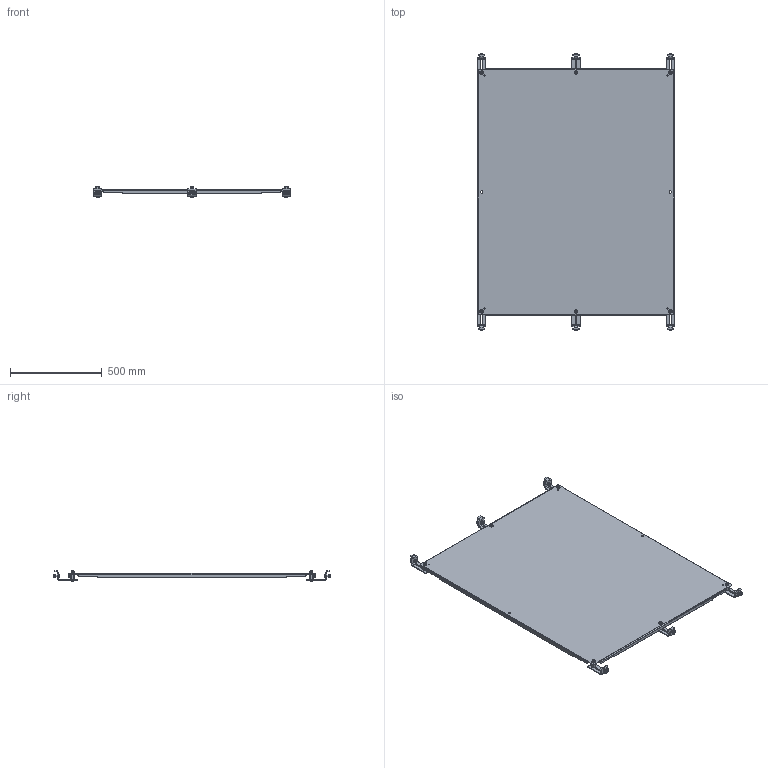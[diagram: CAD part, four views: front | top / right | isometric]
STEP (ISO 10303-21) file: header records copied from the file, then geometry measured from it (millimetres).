
FILE_DESCRIPTION((''),'2;1');
FILE_NAME('MODEL-070_ASM','2026-05-06T08:44:47',('JoelB'),('SAGINAW CONTROL & ENGINEERING'),'CREO PARAMETRIC BY PTC INC, 2021284','CREO PARAMETRIC BY PTC INC, 2021284','');
FILE_SCHEMA(('AUTOMOTIVE_DESIGN { 1 0 10303 214 1 1 1 1 }'));
Length unit declared in the file: inch
Products named in the file (10): MODEL-070-SUBPNL; 118729; 101432; 102406; 101663; 100904; 102493; 100920; SCE-FSPS_SIDE_ASM; MODEL-070_ASM
Assembly tree (14 placements, depth 3):
  MODEL-070_ASM
    MODEL-070-SUBPNL
    118729
    SCE-FSPS_SIDE_ASM  x6
      101432
      102406
      101663
      100904
      102493
      100920
Bounding box: 1073.15 x 1513.33 x 55.88 mm (x, y, z)
Volume: 5076195.2 mm3; surface area: 3188837.5 mm2
Topology: 37 solids, 37 shells, 1952 faces, 4360 edges, 2494 vertices
Faces by surface type: cylinder 640, plane 544, torus 276, bspline 216, sphere 204, cone 72
Entity records: 27521 total; most frequent: CARTESIAN_POINT 12163, DIRECTION 2106, ORIENTED_EDGE 2000, PRESENTATION_STYLE_ASSIGNMENT 1129, STYLED_ITEM 1129, CURVE_STYLE 1000, EDGE_CURVE 1000, AXIS2_PLACEMENT_3D 826
